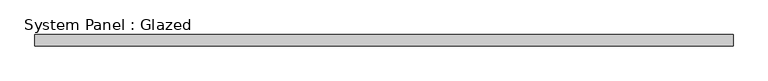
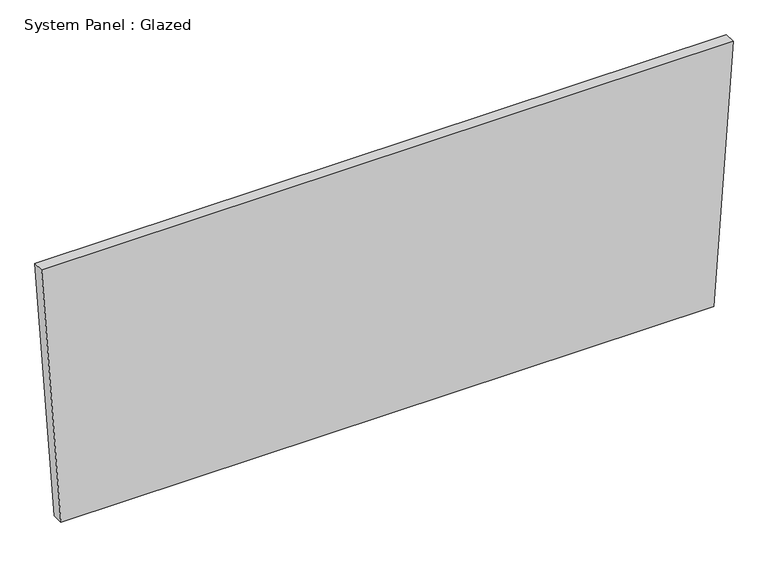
"""IFC4 building model written with IfcOpenShell, lengths in millimetres: plate geometry, System Panel : Glazed."""

import ifcopenshell
import ifcopenshell.guid

model = None  # the IFC model being written
_history = None  # IfcOwnerHistory: only IFC2X3 demands one
_inside = {}  # id of a spatial element -> (the spatial element, [elements in it])
_under = {}  # id of a project, library or spatial element -> (it, [spatial elements below it])
_declared = {}  # id of a project -> (the project, [libraries it declares])
_typed = {}  # id of a type object -> (the type object, [elements of that type])
_made_of = {}  # id of a material, layer set ... -> (it, [elements and type objects made of it])


def new_model(schema):
    """Start an empty IFC model of exactly this schema.

    Asked for "IFC4X3", IfcOpenShell would pick the latest addendum, in which some entities
    have other attributes; the version numbers below select the first issue.
    IFC2X3 requires an IfcOwnerHistory on every rooted entity: one is made here for all.
    """
    global model, _history
    if schema == "IFC4X3":
        model = ifcopenshell.file(schema_version=(4, 3, 0, 0))
    else:
        model = ifcopenshell.file(schema=schema)
    _inside.clear()
    _under.clear()
    _declared.clear()
    _typed.clear()
    _made_of.clear()
    _history = None
    if model.schema == "IFC2X3":
        org = make("IfcOrganization", Name="unknown")
        user = make(
            "IfcPersonAndOrganization",
            ThePerson=make("IfcPerson", FamilyName="unknown"),
            TheOrganization=org,
        )
        app = make(
            "IfcApplication",
            ApplicationDeveloper=org,
            Version="unknown",
            ApplicationFullName="unknown",
            ApplicationIdentifier="unknown",
        )
        _history = make(
            "IfcOwnerHistory",
            OwningUser=user,
            OwningApplication=app,
            ChangeAction="ADDED",
            CreationDate=0,
        )
    return model


def make(cls, **values):
    """One entity of the class cls with the attributes given. An attribute that is None is left unset."""
    return model.create_entity(
        cls, **{name: value for name, value in values.items() if value is not None}
    )


def rooted(cls, **values):
    """An entity with a GlobalId (a new one), such as an element, a storey or a relation."""
    return make(cls, GlobalId=ifcopenshell.guid.new(), OwnerHistory=_history, **values)


def si_unit(unit_type, name, prefix=None):
    """IfcSIUnit, for example si_unit("LENGTHUNIT", "METRE", prefix="MILLI")."""
    return make("IfcSIUnit", UnitType=unit_type, Prefix=prefix, Name=name)


def assignment(units):
    """IfcUnitAssignment: the units of a project."""
    return None if units is None else make("IfcUnitAssignment", Units=units)


def point(xyz):
    """IfcCartesianPoint."""
    return None if xyz is None else make("IfcCartesianPoint", Coordinates=xyz)


def direction(xyz):
    """IfcDirection."""
    return None if xyz is None else make("IfcDirection", DirectionRatios=xyz)


def frame(location, z_axis=None, x_axis=None):
    """IfcAxis2Placement3D, a coordinate frame: its origin and axes. An axis left out is left unset."""
    return make(
        "IfcAxis2Placement3D",
        Location=point(location),
        Axis=direction(z_axis),
        RefDirection=direction(x_axis),
    )


def origin():
    """The frame at (0, 0, 0) with its axes left unset."""
    return frame((0.0, 0.0, 0.0))


def place(relative_to, where):
    """IfcLocalPlacement: puts the frame where relative to a parent placement (None: the world)."""
    return make(
        "IfcLocalPlacement", PlacementRelTo=relative_to, RelativePlacement=where
    )


def context(
    kind, dimensions, precision=None, world=None, true_north=None, identifier=None
):
    """IfcGeometricRepresentationContext, for example the 3D "Model" context."""
    return make(
        "IfcGeometricRepresentationContext",
        ContextIdentifier=identifier,
        ContextType=kind,
        CoordinateSpaceDimension=dimensions,
        Precision=precision,
        WorldCoordinateSystem=world,
        TrueNorth=true_north,
    )


def project(units=None, contexts=None):
    """IfcProject with its units and contexts."""
    return rooted(
        "IfcProject",
        Name="project",
        RepresentationContexts=contexts,
        UnitsInContext=assignment(units),
    )


def spatial(cls, under=None, at=None, **own):
    """A site, building, storey or space (cls), placed at a placement, below another one or the project."""
    s = rooted(cls, ObjectPlacement=at, **own)
    if under is not None:
        _under.setdefault(under.id(), (under, []))[1].append(s)
    return s


def polyline(points):
    """IfcPolyline through the points."""
    return make("IfcPolyline", Points=[point(p) for p in points])


def outline(outer, holes=None, kind="AREA"):
    """IfcArbitraryClosedProfileDef: a profile drawn as a closed curve; with holes, ...WithVoids."""
    if holes is None:
        return make("IfcArbitraryClosedProfileDef", ProfileType=kind, OuterCurve=outer)
    return make(
        "IfcArbitraryProfileDefWithVoids",
        ProfileType=kind,
        OuterCurve=outer,
        InnerCurves=holes,
    )


def extrude(swept, where, along, depth):
    """IfcExtrudedAreaSolid: the profile swept, set in the frame where, extruded along a direction by depth."""
    return make(
        "IfcExtrudedAreaSolid",
        SweptArea=swept,
        Position=where,
        ExtrudedDirection=direction(along),
        Depth=depth,
    )


def shape(context_of_items, identifier, shape_type, items):
    """IfcShapeRepresentation: the items that make up one representation, for example the "Body"."""
    return make(
        "IfcShapeRepresentation",
        ContextOfItems=context_of_items,
        RepresentationIdentifier=identifier,
        RepresentationType=shape_type,
        Items=items,
    )


def source(mapping_origin, context_of_items, identifier, shape_type, items):
    """IfcRepresentationMap: a shape defined once, which mapped items show again and again."""
    return make(
        "IfcRepresentationMap",
        MappingOrigin=mapping_origin,
        MappedRepresentation=shape(context_of_items, identifier, shape_type, items),
    )


def transform(
    local_origin,
    x_axis=None,
    y_axis=None,
    z_axis=None,
    scale=None,
    scale2=None,
    scale3=None,
    uniform=True,
):
    """IfcCartesianTransformationOperator3D, or its non-uniform kind. x_axis, y_axis, z_axis: its Axis1, 2, 3."""
    if uniform:
        return make(
            "IfcCartesianTransformationOperator3D",
            Axis1=direction(x_axis),
            Axis2=direction(y_axis),
            LocalOrigin=point(local_origin),
            Scale=scale,
            Axis3=direction(z_axis),
        )
    return make(
        "IfcCartesianTransformationOperator3DnonUniform",
        Axis1=direction(x_axis),
        Axis2=direction(y_axis),
        LocalOrigin=point(local_origin),
        Scale=scale,
        Axis3=direction(z_axis),
        Scale2=scale2,
        Scale3=scale3,
    )


def mapped(mapping_source, mapping_target):
    """IfcMappedItem: shows the shape of a source again, moved by a transform."""
    return make(
        "IfcMappedItem", MappingSource=mapping_source, MappingTarget=mapping_target
    )


def made_of(thing, what):
    """Note that an element or type object is made of a material, layer set ...; save() writes the relation."""
    if what is not None:
        _made_of.setdefault(what.id(), (what, []))[1].append(thing)
    return thing


def element(
    cls,
    number,
    at=None,
    inside=None,
    cuts=None,
    type_object=None,
    material=None,
    context=None,
    identifier="Body",
    shape_type=None,
    held_by="IfcProductDefinitionShape",
    body=None,
    shapes=None,
    **own,
):
    """One element of the class cls, such as IfcWall. Its Tag is "e" and its number.

    at: its placement. inside: the storey or other place that contains it. cuts: it is an
    opening in that element (IfcRelVoidsElement). A single representation is given by context,
    identifier, shape_type and body (its items); several are given by shapes. held_by: the class
    of the entity that holds the representations. save() writes the other relations.
    """
    e = rooted(cls, Tag="e%d" % number, ObjectPlacement=at, **own)
    if body is not None:
        shapes = [shape(context, identifier, shape_type, body)]
    if shapes is not None:
        e.Representation = make(held_by, Representations=shapes)
    if inside is not None:
        _inside.setdefault(inside.id(), (inside, []))[1].append(e)
    if cuts is not None:
        rooted(
            "IfcRelVoidsElement", RelatingBuildingElement=cuts, RelatedOpeningElement=e
        )
    if type_object is not None:
        _typed.setdefault(type_object.id(), (type_object, []))[1].append(e)
    return made_of(e, material)


def aggregate(whole, parts):
    """IfcRelAggregates: a whole, such as a stair, and the parts it consists of."""
    return rooted("IfcRelAggregates", RelatingObject=whole, RelatedObjects=parts)


def save(model, path):
    """Write the relations noted so far, then the file.

    IfcRelAggregates (storeys below a building ...), IfcRelContainedInSpatialStructure (elements
    in a storey), IfcRelDefinesByType, IfcRelAssociatesMaterial and IfcRelDeclares: one each for
    every whole, place, type object, material and project.
    """
    for whole, parts in _under.values():
        aggregate(whole, parts)
    for where, things in _inside.values():
        rooted(
            "IfcRelContainedInSpatialStructure",
            RelatedElements=things,
            RelatingStructure=where,
        )
    for kind, things in _typed.values():
        rooted("IfcRelDefinesByType", RelatedObjects=things, RelatingType=kind)
    for what, things in _made_of.values():
        rooted("IfcRelAssociatesMaterial", RelatedObjects=things, RelatingMaterial=what)
    for by, libraries in _declared.values():
        rooted("IfcRelDeclares", RelatingContext=by, RelatedDefinitions=libraries)
    model.write(path)


def system_panel_glazed_9db92dc2(model_context):
    return source(origin(), model_context, "Body", "SweptSolid", [
        extrude(outline(polyline([(0.0, -725.630234), (0.0, 725.630234), (608.0912079, 768.4933047), (608.0912079, -768.4933047), (0.0, -725.630234)])), frame((0.0, -44.45, 0.0), z_axis=(0.0, 1.0, 0.0), x_axis=(0.0, 0.0, 1.0)), (0.0, 0.0, 1.0), 25.4),
    ])


if __name__ == "__main__":
    model = new_model("IFC4")
    model_context = context("Model", 3, world=origin())
    ifc_project = project(units=[si_unit("LENGTHUNIT", "METRE", prefix="MILLI")], contexts=[model_context])
    site = spatial("IfcSite", under=ifc_project)
    building = spatial("IfcBuilding", under=site)
    placement = place(None, origin())
    system_panel_glazed_shape = system_panel_glazed_9db92dc2(model_context)
    element("IfcPlate", 1, ObjectType="System Panel : Glazed", at=placement, inside=building, context=model_context, shape_type="MappedRepresentation", body=[
        mapped(system_panel_glazed_shape, transform((0.0, 0.0, 0.0), x_axis=(1.0, 0.0, 0.0), y_axis=(0.0, 1.0, 0.0), z_axis=(0.0, 0.0, 1.0))),
    ])
    save(model, "model.ifc")
